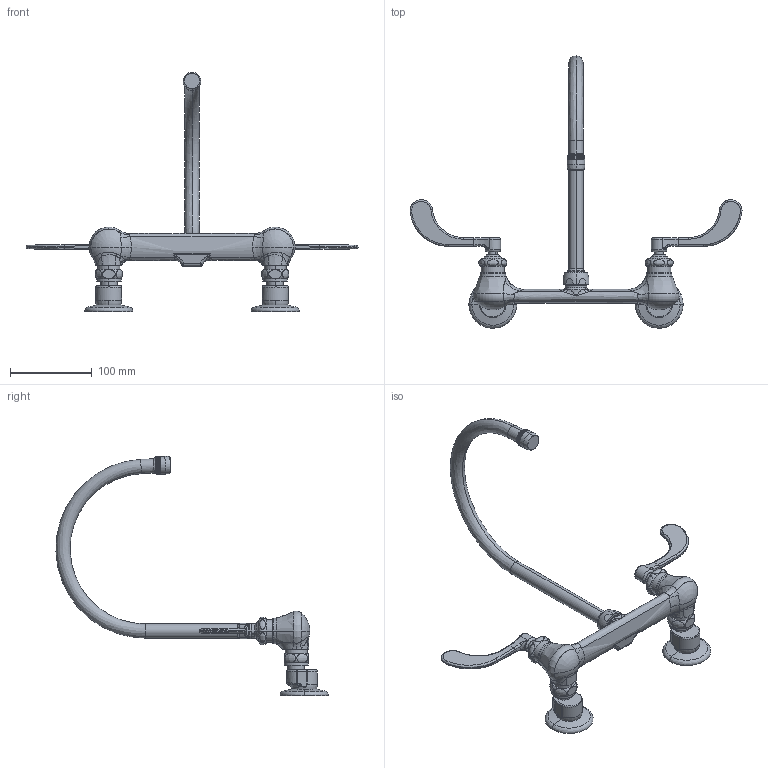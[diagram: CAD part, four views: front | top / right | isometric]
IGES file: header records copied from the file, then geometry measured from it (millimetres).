
Start section:  PTC IGES file: 631-GN8AE35ABCP_REV120816.igs
Global section: file name: 631-GN8AE35ABCP_REV120816.igs; native system: Creo Parametric by PTC Inc.; preprocessor: 2014500; author: rodjo; organization: Unknown; date: 20161208.140112; units: inch
Bounding box: 407.16 x 333.69 x 293.52 mm (x, y, z)
Surface area: 113092.7 mm2 (no closed solid volume)
Topology: 0 solids, 0 shells, 443 faces, 2995 edges, 3921 vertices
Faces by surface type: bspline 250, revolution 193
